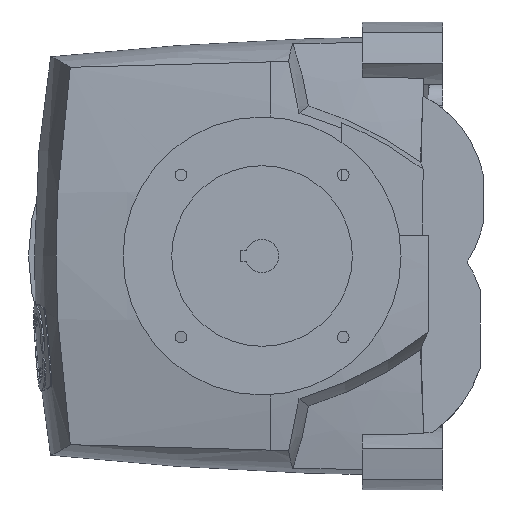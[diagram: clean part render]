
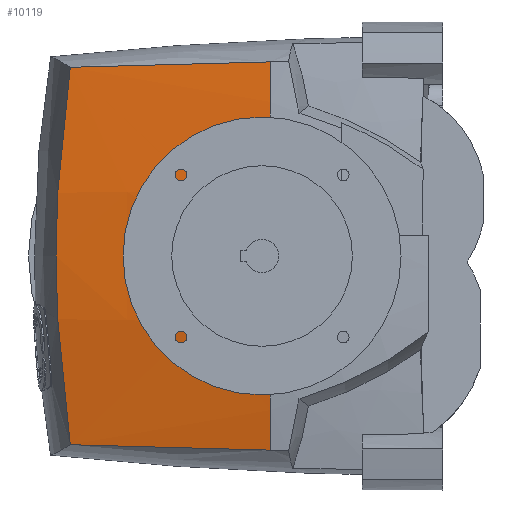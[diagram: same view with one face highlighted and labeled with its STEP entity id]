
A CAD part, left-side view. The second image highlights one B-rep face of the part: STEP entity #10119.
In plain terms, the highlighted free-form (B-spline) face has degree [3, 3] with [4, 4] control points.
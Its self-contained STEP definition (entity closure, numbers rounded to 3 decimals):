
#1040=CARTESIAN_POINT('',(-102.783,299.978,
-135.787));
#1041=CARTESIAN_POINT('',(-105.007,284.152,
-136.714));
#1042=CARTESIAN_POINT('',(-109.32,252.378,
-138.235));
#1043=CARTESIAN_POINT('',(-115.372,204.343,
-139.532));
#1044=CARTESIAN_POINT('',(-119.119,172.099,
-139.731));
#1045=CARTESIAN_POINT('',(-120.92,155.92,
-139.666));
#1696=CARTESIAN_POINT('',(-120.92,155.92,139.665));
#1697=CARTESIAN_POINT('',(-119.119,172.099,139.731));
#1698=CARTESIAN_POINT('',(-115.372,204.343,139.532));
#1699=CARTESIAN_POINT('',(-109.32,252.378,138.235));
#1700=CARTESIAN_POINT('',(-105.007,284.152,136.714));
#1701=CARTESIAN_POINT('',(-102.783,299.978,135.787));
#1789=CARTESIAN_POINT('',(816.429,155.918,0.));
#1790=DIRECTION('',(0.,1.,0.));
#1791=DIRECTION('',(-0.989,0.,-0.147));
#1792=AXIS2_PLACEMENT_3D('',#1789,#1790,#1791);
#1846=CARTESIAN_POINT('',(816.429,155.918,0.));
#1847=DIRECTION('',(0.,1.,0.));
#1848=DIRECTION('',(-0.998,0.,0.056));
#1849=AXIS2_PLACEMENT_3D('',#1846,#1847,#1848);
#2023=CARTESIAN_POINT('',(-123.775,210.93,44.928));
#2024=CARTESIAN_POINT('',(-124.023,212.734,35.054));
#2025=CARTESIAN_POINT('',(-124.362,215.151,15.089));
#2026=CARTESIAN_POINT('',(-124.362,215.151,
-15.089));
#2027=CARTESIAN_POINT('',(-124.023,212.734,
-35.055));
#2028=CARTESIAN_POINT('',(-123.775,210.93,
-44.928));
#2030=CARTESIAN_POINT('',(-123.775,210.93,
-44.928));
#2031=CARTESIAN_POINT('',(-123.763,210.84,
-45.421));
#2032=CARTESIAN_POINT('',(-123.757,210.509,
-46.381));
#2033=CARTESIAN_POINT('',(-123.807,209.61,
-47.603));
#2034=CARTESIAN_POINT('',(-123.912,208.387,
-48.506));
#2035=CARTESIAN_POINT('',(-124.013,207.425,
-48.839));
#2036=CARTESIAN_POINT('',(-124.07,206.928,
-48.93));
#2038=CARTESIAN_POINT('',(-124.07,206.928,
-48.93));
#2039=CARTESIAN_POINT('',(-124.705,201.333,
-49.952));
#2040=CARTESIAN_POINT('',(-125.977,190.07,
-51.615));
#2041=CARTESIAN_POINT('',(-127.886,173.026,
-52.952));
#2042=CARTESIAN_POINT('',(-129.156,161.62,
-53.065));
#2043=CARTESIAN_POINT('',(-129.789,155.918,
-52.926));
#2045=CARTESIAN_POINT('',(-129.789,155.918,52.926));
#2046=CARTESIAN_POINT('',(-129.156,161.62,53.065));
#2047=CARTESIAN_POINT('',(-127.886,173.027,52.952));
#2048=CARTESIAN_POINT('',(-125.977,190.069,51.615));
#2049=CARTESIAN_POINT('',(-124.705,201.334,49.952));
#2050=CARTESIAN_POINT('',(-124.07,206.927,48.93));
#2052=CARTESIAN_POINT('',(-124.07,206.927,48.93));
#2053=CARTESIAN_POINT('',(-124.013,207.424,48.839));
#2054=CARTESIAN_POINT('',(-123.912,208.388,48.505));
#2055=CARTESIAN_POINT('',(-123.807,209.611,47.603));
#2056=CARTESIAN_POINT('',(-123.757,210.51,46.378));
#2057=CARTESIAN_POINT('',(-123.763,210.84,45.42));
#2058=CARTESIAN_POINT('',(-123.775,210.93,44.928));
#2536=CARTESIAN_POINT('',(-102.783,299.978,135.787));
#2537=CARTESIAN_POINT('',(-105.054,302.5,117.868));
#2538=CARTESIAN_POINT('',(-108.656,306.837,81.881));
#2539=CARTESIAN_POINT('',(-111.34,310.396,27.347));
#2540=CARTESIAN_POINT('',(-111.34,310.396,
-27.349));
#2541=CARTESIAN_POINT('',(-108.656,306.837,
-81.882));
#2542=CARTESIAN_POINT('',(-105.054,302.5,
-117.868));
#2543=CARTESIAN_POINT('',(-102.783,299.978,
-135.787));
#6111=CARTESIAN_POINT('',(-123.775,210.93,44.928));
#6112=VERTEX_POINT('',#6111);
#6115=CARTESIAN_POINT('',(-123.775,210.93,
-44.928));
#6116=VERTEX_POINT('',#6115);
#6119=VERTEX_POINT('',#2038);
#6120=VERTEX_POINT('',#2043);
#6140=CARTESIAN_POINT('',(-124.07,206.927,48.93));
#6141=VERTEX_POINT('',#6140);
#6142=VERTEX_POINT('',#1040);
#6143=VERTEX_POINT('',#1045);
#6144=VERTEX_POINT('',#1696);
#6145=VERTEX_POINT('',#1701);
#6146=VERTEX_POINT('',#2045);
#10084=CARTESIAN_POINT('',(-120.325,152.821,
-145.814));
#10085=CARTESIAN_POINT('',(-114.562,206.504,
-144.917));
#10086=CARTESIAN_POINT('',(-107.69,260.053,
-143.847));
#10087=CARTESIAN_POINT('',(-99.714,313.444,
-142.606));
#10088=CARTESIAN_POINT('',(-135.396,152.821,
-48.993));
#10089=CARTESIAN_POINT('',(-129.54,206.504,
-48.692));
#10090=CARTESIAN_POINT('',(-122.558,260.053,
-48.332));
#10091=CARTESIAN_POINT('',(-114.453,313.444,
-47.915));
#10092=CARTESIAN_POINT('',(-135.396,152.821,
48.993));
#10093=CARTESIAN_POINT('',(-129.54,206.504,
48.692));
#10094=CARTESIAN_POINT('',(-122.558,260.053,
48.333));
#10095=CARTESIAN_POINT('',(-114.453,313.444,
47.915));
#10096=CARTESIAN_POINT('',(-120.325,152.821,
145.814));
#10097=CARTESIAN_POINT('',(-114.562,206.504,
144.917));
#10098=CARTESIAN_POINT('',(-107.69,260.053,
143.847));
#10099=CARTESIAN_POINT('',(-99.714,313.444,
142.606));
#10100=(BOUNDED_SURFACE()B_SPLINE_SURFACE(3,3,((#10084,#10085,#10086,#10087),(
#10088,#10089,#10090,#10091),(#10092,#10093,#10094,#10095),(#10096,#10097,
#10098,#10099)),.UNSPECIFIED.,.F.,.F.,.F.)B_SPLINE_SURFACE_WITH_KNOTS((4,4),(4,
4),(0.,1.),(0.,1.),.UNSPECIFIED.)GEOMETRIC_REPRESENTATION_ITEM()RATIONAL_B_SPLINE_SURFACE(((1.006,1.006,1.006,
1.006),(0.998,0.998,0.998,
0.998),(0.998,0.998,0.998,
0.998),(1.006,1.006,1.006,
1.006)))REPRESENTATION_ITEM('')SURFACE());
#10102=ORIENTED_EDGE('',*,*,#10101,.T.);
#10104=ORIENTED_EDGE('',*,*,#10103,.T.);
#10106=ORIENTED_EDGE('',*,*,#10105,.T.);
#10107=ORIENTED_EDGE('',*,*,#9874,.F.);
#10108=ORIENTED_EDGE('',*,*,#8836,.F.);
#10110=ORIENTED_EDGE('',*,*,#10109,.F.);
#10111=ORIENTED_EDGE('',*,*,#9795,.F.);
#10112=ORIENTED_EDGE('',*,*,#9890,.F.);
#10114=ORIENTED_EDGE('',*,*,#10113,.T.);
#10116=ORIENTED_EDGE('',*,*,#10115,.T.);
#10117=EDGE_LOOP('',(#10102,#10104,#10106,#10107,#10108,#10110,#10111,#10112,
#10114,#10116));
#10118=FACE_OUTER_BOUND('',#10117,.F.);
#10119=ADVANCED_FACE('',(#10118),#10100,.T.);
#1046=B_SPLINE_CURVE_WITH_KNOTS('',3,(#1040,#1041,#1042,#1043,#1044,#1045),
.UNSPECIFIED.,.F.,.F.,(4,1,1,4),(0.,0.333,0.667,1.),
.UNSPECIFIED.);
#1702=B_SPLINE_CURVE_WITH_KNOTS('',3,(#1696,#1697,#1698,#1699,#1700,#1701),
.UNSPECIFIED.,.F.,.F.,(4,1,1,4),(0.,0.333,0.667,1.),
.UNSPECIFIED.);
#1793=CIRCLE('',#1792,947.697);
#1850=CIRCLE('',#1849,947.697);
#2029=B_SPLINE_CURVE_WITH_KNOTS('',3,(#2023,#2024,#2025,#2026,#2027,#2028),
.UNSPECIFIED.,.F.,.F.,(4,1,1,4),(0.,0.333,0.667,1.),
.UNSPECIFIED.);
#2037=B_SPLINE_CURVE_WITH_KNOTS('',3,(#2030,#2031,#2032,#2033,#2034,#2035,
#2036),.UNSPECIFIED.,.F.,.F.,(4,1,1,1,4),(0.,0.25,0.5,0.75,1.),
.UNSPECIFIED.);
#2044=B_SPLINE_CURVE_WITH_KNOTS('',3,(#2038,#2039,#2040,#2041,#2042,#2043),
.UNSPECIFIED.,.F.,.F.,(4,1,1,4),(0.,0.333,0.667,1.),
.UNSPECIFIED.);
#2051=B_SPLINE_CURVE_WITH_KNOTS('',3,(#2045,#2046,#2047,#2048,#2049,#2050),
.UNSPECIFIED.,.F.,.F.,(4,1,1,4),(0.,0.333,0.667,1.),
.UNSPECIFIED.);
#2059=B_SPLINE_CURVE_WITH_KNOTS('',3,(#2052,#2053,#2054,#2055,#2056,#2057,
#2058),.UNSPECIFIED.,.F.,.F.,(4,1,1,1,4),(0.,0.25,0.5,0.75,1.),
.UNSPECIFIED.);
#2544=B_SPLINE_CURVE_WITH_KNOTS('',3,(#2536,#2537,#2538,#2539,#2540,#2541,#2542,
#2543),.UNSPECIFIED.,.F.,.F.,(4,1,1,1,1,4),(0.,0.2,0.4,0.6,0.8,1.),
.UNSPECIFIED.);
#8836=EDGE_CURVE('',#6142,#6143,#1046,.T.);
#9795=EDGE_CURVE('',#6144,#6145,#1702,.T.);
#9874=EDGE_CURVE('',#6143,#6120,#1793,.T.);
#9890=EDGE_CURVE('',#6146,#6144,#1850,.T.);
#10101=EDGE_CURVE('',#6112,#6116,#2029,.T.);
#10103=EDGE_CURVE('',#6116,#6119,#2037,.T.);
#10105=EDGE_CURVE('',#6119,#6120,#2044,.T.);
#10109=EDGE_CURVE('',#6145,#6142,#2544,.T.);
#10113=EDGE_CURVE('',#6146,#6141,#2051,.T.);
#10115=EDGE_CURVE('',#6141,#6112,#2059,.T.);
